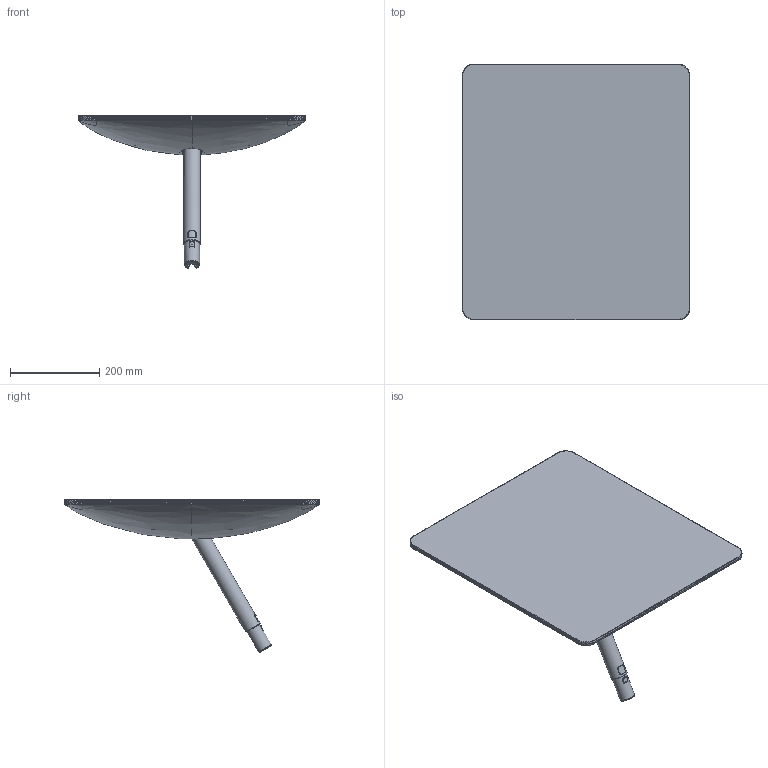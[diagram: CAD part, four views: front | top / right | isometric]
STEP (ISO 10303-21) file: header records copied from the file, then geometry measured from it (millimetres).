
FILE_DESCRIPTION(/* description */ (''),/* implementation_level */ '2;1');
FILE_NAME(/* name */ '429126_01_HP_Actuated.stp',/* time_stamp */ '2022-08-12T13:25:16-07:00',/* author */ (''),/* organization */ (''),/* preprocessor_version */ 'ST-DEVELOPER v18.102',/* originating_system */ 'SIEMENS PLM Software NX 2023',/* authorisation */ '');
FILE_SCHEMA (('AUTOMOTIVE_DESIGN { 1 0 10303 214 3 1 1 1 }'));
Length unit declared in the file: millimetre
Products named in the file (1): 01_objects
Bounding box: 511.27 x 574.76 x 341.56 mm (x, y, z)
Volume: 14106733.8 mm3; surface area: 698765 mm2
Topology: 5 solids, 5 shells, 189 faces, 453 edges, 294 vertices
Faces by surface type: bspline 81, plane 68, cylinder 30, cone 7, torus 3
Full cylindrical faces by diameter (mm): 30.54 x1, 38.3 x2
Entity records: 27385 total; most frequent: CARTESIAN_POINT 23714, ORIENTED_EDGE 872, DIRECTION 473, EDGE_CURVE 436, VERTEX_POINT 282, B_SPLINE_CURVE_WITH_KNOTS 256, EDGE_LOOP 220, ADVANCED_FACE 189
